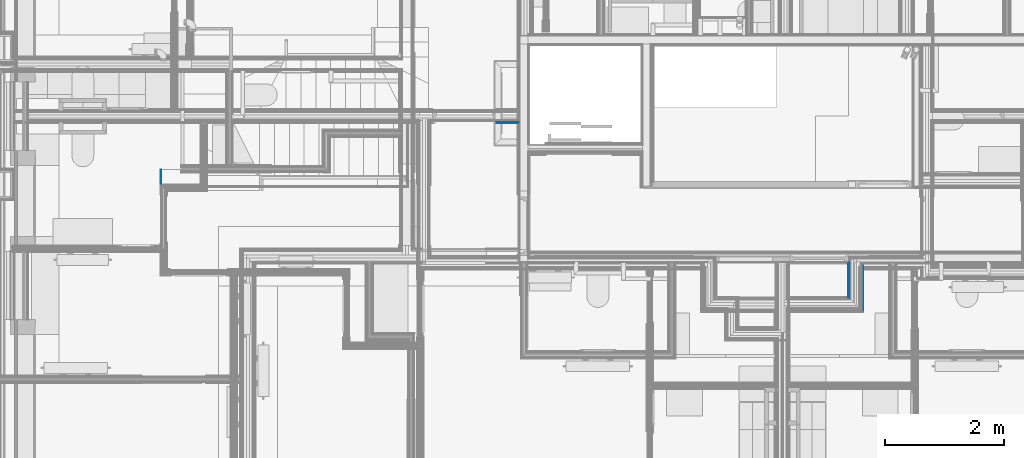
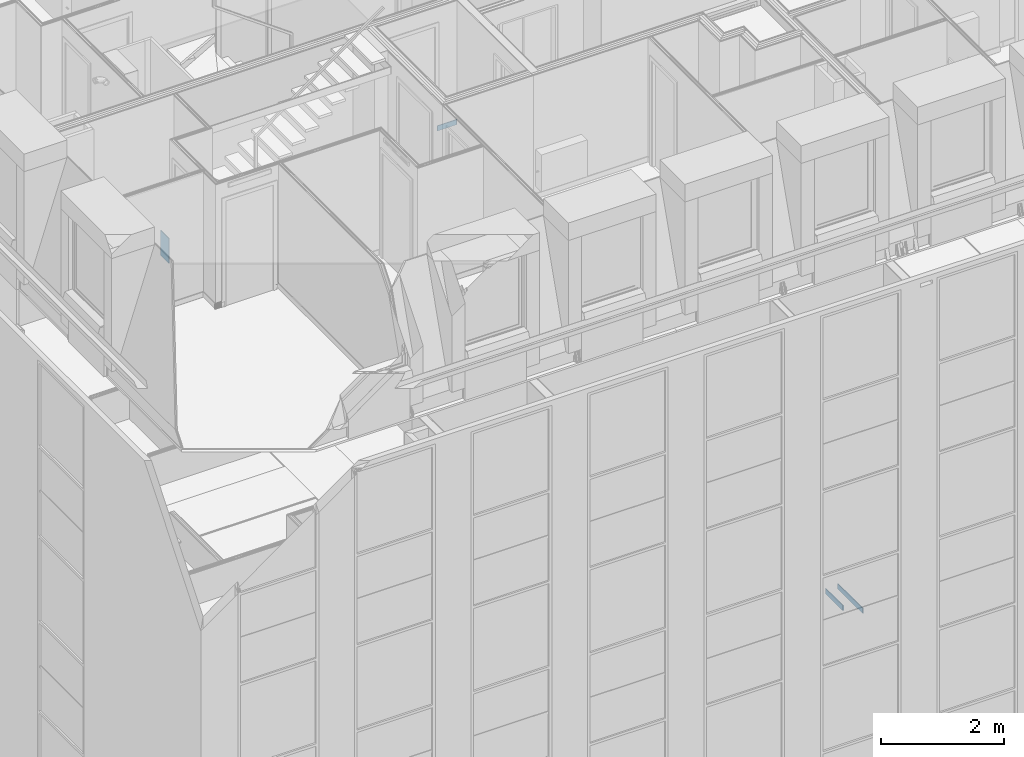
# One storey, part 9 of 169: 4 walls, 1 opening.
"""IFC2X3 building model written with IfcOpenShell, lengths in metres."""

from ifc_helpers import new_model, entity, si_unit, converted_unit, derived_unit, money_unit, direction, frame, frame_2d, origin_with_axes, place, context, subcontext, project, spatial, polyline, rectangle, outline, extrude, material, layer, layer_set, layer_usage, type_object, element, save


model = new_model("IFC2X3")

# Units and contexts
model_context = context("Model", 3, precision=1e-05, world=origin_with_axes(), true_north=direction((0.0, 1.0)))
body_context = subcontext(model_context, "Body", "Model", "MODEL_VIEW", scale=1.0)
ifc_project = project(units=[si_unit("LENGTHUNIT", "METRE"), si_unit("AREAUNIT", "SQUARE_METRE"), si_unit("VOLUMEUNIT", "CUBIC_METRE"), si_unit("ABSORBEDDOSEUNIT", "GRAY"), si_unit("AMOUNTOFSUBSTANCEUNIT", "MOLE"), si_unit("DOSEEQUIVALENTUNIT", "SIEVERT"), si_unit("ELECTRICCAPACITANCEUNIT", "FARAD"), si_unit("ELECTRICCHARGEUNIT", "COULOMB"), si_unit("ELECTRICCONDUCTANCEUNIT", "SIEMENS"), si_unit("ELECTRICCURRENTUNIT", "AMPERE"), si_unit("ELECTRICRESISTANCEUNIT", "OHM"), si_unit("ELECTRICVOLTAGEUNIT", "VOLT"), si_unit("ENERGYUNIT", "JOULE"), si_unit("FORCEUNIT", "NEWTON"), si_unit("FREQUENCYUNIT", "HERTZ"), si_unit("ILLUMINANCEUNIT", "LUX"), si_unit("INDUCTANCEUNIT", "HENRY"), si_unit("LUMINOUSFLUXUNIT", "LUMEN"), si_unit("LUMINOUSINTENSITYUNIT", "CANDELA"), si_unit("MAGNETICFLUXDENSITYUNIT", "TESLA"), si_unit("MAGNETICFLUXUNIT", "WEBER"), si_unit("MASSUNIT", "GRAM"), converted_unit("PLANEANGLEUNIT", "degree", entity("IfcReal", 0.0174532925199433), si_unit("PLANEANGLEUNIT", "RADIAN"), dimensions=[0, 0, 0, 0, 0, 0, 0]), si_unit("POWERUNIT", "WATT"), si_unit("PRESSUREUNIT", "PASCAL"), si_unit("RADIOACTIVITYUNIT", "BECQUEREL"), si_unit("SOLIDANGLEUNIT", "STERADIAN"), si_unit("THERMODYNAMICTEMPERATUREUNIT", "KELVIN"), si_unit("TIMEUNIT", "SECOND"), derived_unit("ACCELERATIONUNIT", [(si_unit("LENGTHUNIT", "METRE"), 1), (si_unit("TIMEUNIT", "SECOND"), -2)]), derived_unit("ANGULARVELOCITYUNIT", [(converted_unit("PLANEANGLEUNIT", "degree", entity("IfcReal", 0.0174532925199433), si_unit("PLANEANGLEUNIT", "RADIAN"), dimensions=[0, 0, 0, 0, 0, 0, 0]), 1), (si_unit("TIMEUNIT", "SECOND"), -1)]), derived_unit("CURVATUREUNIT", [(converted_unit("PLANEANGLEUNIT", "degree", entity("IfcReal", 0.0174532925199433), si_unit("PLANEANGLEUNIT", "RADIAN"), dimensions=[0, 0, 0, 0, 0, 0, 0]), 1), (si_unit("LENGTHUNIT", "METRE"), -1)]), derived_unit("DYNAMICVISCOSITYUNIT", [(si_unit("PRESSUREUNIT", "PASCAL"), 1), (si_unit("TIMEUNIT", "SECOND"), 1)]), derived_unit("HEATFLUXDENSITYUNIT", [(si_unit("POWERUNIT", "WATT"), 1), (si_unit("LENGTHUNIT", "METRE"), -2)]), derived_unit("HEATINGVALUEUNIT", [(si_unit("ENERGYUNIT", "JOULE"), 1), (si_unit("MASSUNIT", "GRAM"), -1)]), derived_unit("INTEGERCOUNTRATEUNIT", [(si_unit("TIMEUNIT", "SECOND"), -1)]), derived_unit("IONCONCENTRATIONUNIT", [(si_unit("MASSUNIT", "GRAM"), 1), (si_unit("VOLUMEUNIT", "CUBIC_METRE"), -1)]), derived_unit("ISOTHERMALMOISTURECAPACITYUNIT", [(si_unit("VOLUMEUNIT", "CUBIC_METRE"), 1), (si_unit("MASSUNIT", "GRAM"), -1)]), derived_unit("KINEMATICVISCOSITYUNIT", [(si_unit("AREAUNIT", "SQUARE_METRE"), 1), (si_unit("TIMEUNIT", "SECOND"), -1)]), derived_unit("LINEARFORCEUNIT", [(si_unit("FORCEUNIT", "NEWTON"), 1), (si_unit("LENGTHUNIT", "METRE"), -1)]), derived_unit("LINEARMOMENTUNIT", [(si_unit("FORCEUNIT", "NEWTON"), 1), (si_unit("LENGTHUNIT", "METRE"), -1)]), derived_unit("LINEARSTIFFNESSUNIT", [(si_unit("FORCEUNIT", "NEWTON"), 1), (si_unit("LENGTHUNIT", "METRE"), -1)]), derived_unit("LINEARVELOCITYUNIT", [(si_unit("LENGTHUNIT", "METRE"), 1), (si_unit("TIMEUNIT", "SECOND"), -1)]), derived_unit("LUMINOUSINTENSITYDISTRIBUTIONUNIT", [(si_unit("LUMINOUSINTENSITYUNIT", "CANDELA"), 1), (si_unit("LUMINOUSFLUXUNIT", "LUMEN"), -1)]), derived_unit("MASSDENSITYUNIT", [(si_unit("MASSUNIT", "GRAM"), 1), (si_unit("VOLUMEUNIT", "CUBIC_METRE"), -1)]), derived_unit("MASSFLOWRATEUNIT", [(si_unit("MASSUNIT", "GRAM"), 1), (si_unit("TIMEUNIT", "SECOND"), -1)]), derived_unit("MASSPERLENGTHUNIT", [(si_unit("MASSUNIT", "GRAM"), 1), (si_unit("LENGTHUNIT", "METRE"), -1)]), derived_unit("MODULUSOFELASTICITYUNIT", [(si_unit("FORCEUNIT", "NEWTON"), 1), (si_unit("AREAUNIT", "SQUARE_METRE"), -1)]), derived_unit("MODULUSOFLINEARSUBGRADEREACTIONUNIT", [(si_unit("FORCEUNIT", "NEWTON"), 1), (si_unit("LENGTHUNIT", "METRE"), -2)]), derived_unit("MODULUSOFROTATIONALSUBGRADEREACTIONUNIT", [(si_unit("FORCEUNIT", "NEWTON"), 1), (si_unit("LENGTHUNIT", "METRE"), 1)]), derived_unit("MODULUSOFSUBGRADEREACTIONUNIT", [(si_unit("FORCEUNIT", "NEWTON"), 1), (si_unit("VOLUMEUNIT", "CUBIC_METRE"), -1)]), derived_unit("MOISTUREDIFFUSIVITYUNIT", [(si_unit("VOLUMEUNIT", "CUBIC_METRE"), 1), (si_unit("TIMEUNIT", "SECOND"), -1)]), derived_unit("MOLECULARWEIGHTUNIT", [(si_unit("MASSUNIT", "GRAM"), 1), (si_unit("AMOUNTOFSUBSTANCEUNIT", "MOLE"), -1)]), derived_unit("PLANARFORCEUNIT", [(si_unit("FORCEUNIT", "NEWTON"), 1), (si_unit("LENGTHUNIT", "METRE"), -2)]), derived_unit("ROTATIONALFREQUENCYUNIT", [(si_unit("TIMEUNIT", "SECOND"), -1)]), derived_unit("ROTATIONALMASSUNIT", [(si_unit("MASSUNIT", "GRAM"), 1), (si_unit("LENGTHUNIT", "METRE"), 2)]), derived_unit("ROTATIONALSTIFFNESSUNIT", [(si_unit("FORCEUNIT", "NEWTON"), 1), (si_unit("LENGTHUNIT", "METRE"), 1), (converted_unit("PLANEANGLEUNIT", "degree", entity("IfcReal", 0.0174532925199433), si_unit("PLANEANGLEUNIT", "RADIAN"), dimensions=[0, 0, 0, 0, 0, 0, 0]), -1)]), derived_unit("SECTIONAREAINTEGRALUNIT", [(si_unit("LENGTHUNIT", "METRE"), 5)]), derived_unit("SECTIONMODULUSUNIT", [(si_unit("LENGTHUNIT", "METRE"), 3)]), derived_unit("SHEARMODULUSUNIT", [(si_unit("FORCEUNIT", "NEWTON"), 1), (si_unit("AREAUNIT", "SQUARE_METRE"), -1)]), derived_unit("SOUNDPOWERUNIT", [(si_unit("ENERGYUNIT", "JOULE"), 1), (si_unit("TIMEUNIT", "SECOND"), -1)]), derived_unit("SPECIFICHEATCAPACITYUNIT", [(si_unit("FORCEUNIT", "NEWTON"), 1), (si_unit("MASSUNIT", "GRAM"), -1), (si_unit("THERMODYNAMICTEMPERATUREUNIT", "KELVIN"), -1)]), derived_unit("TEMPERATUREGRADIENTUNIT", [(si_unit("THERMODYNAMICTEMPERATUREUNIT", "KELVIN"), 1), (si_unit("LENGTHUNIT", "METRE"), -1)]), derived_unit("THERMALADMITTANCEUNIT", [(si_unit("POWERUNIT", "WATT"), 1), (si_unit("AREAUNIT", "SQUARE_METRE"), -1), (si_unit("THERMODYNAMICTEMPERATUREUNIT", "KELVIN"), -1)]), derived_unit("THERMALCONDUCTANCEUNIT", [(si_unit("POWERUNIT", "WATT"), 1), (si_unit("LENGTHUNIT", "METRE"), -1), (si_unit("THERMODYNAMICTEMPERATUREUNIT", "KELVIN"), -1)]), derived_unit("THERMALEXPANSIONCOEFFICIENTUNIT", [(si_unit("THERMODYNAMICTEMPERATUREUNIT", "KELVIN"), -1)]), derived_unit("THERMALRESISTANCEUNIT", [(si_unit("AREAUNIT", "SQUARE_METRE"), 1), (si_unit("POWERUNIT", "WATT"), -1)]), derived_unit("THERMALTRANSMITTANCEUNIT", [(si_unit("POWERUNIT", "WATT"), 1), (si_unit("AREAUNIT", "SQUARE_METRE"), -1), (si_unit("THERMODYNAMICTEMPERATUREUNIT", "KELVIN"), -1)]), derived_unit("TORQUEUNIT", [(si_unit("FORCEUNIT", "NEWTON"), 1), (si_unit("LENGTHUNIT", "METRE"), 1)]), derived_unit("VAPORPERMEABILITYUNIT", [(si_unit("MASSUNIT", "GRAM"), 1), (si_unit("TIMEUNIT", "SECOND"), -1)]), derived_unit("VOLUMETRICFLOWRATEUNIT", [(si_unit("VOLUMEUNIT", "CUBIC_METRE"), 1), (si_unit("TIMEUNIT", "SECOND"), -1)]), derived_unit("WARPINGCONSTANTUNIT", [(si_unit("LENGTHUNIT", "METRE"), 6)]), derived_unit("WARPINGMOMENTUNIT", [(si_unit("FORCEUNIT", "NEWTON"), 1), (si_unit("LENGTHUNIT", "METRE"), 2)]), money_unit("GBP")], contexts=[model_context])

# Site, building, storey
site_placement = place(None, origin_with_axes())
site = spatial("IfcSite", under=ifc_project, at=site_placement, Name="Site", CompositionType="ELEMENT")
building_placement = place(site_placement, origin_with_axes())
building = spatial("IfcBuilding", under=site, at=building_placement, Name="Building01", CompositionType="ELEMENT")
storey_placement = place(building_placement, frame((0.0, 0.0, 5.15), z_axis=(0.0, 0.0, 1.0), x_axis=(1.0, 0.0, 0.0)))
storey = spatial("IfcBuildingStorey", under=building, at=storey_placement, Name="1F", CompositionType="ELEMENT", Elevation=5.15)

# Walls
ifc_material = material(Name="A_BSUK_Walls_Timber")
ifc_layer = layer(ifc_material, 0.015, ventilated=False)
ifc_layer_set = layer_set([ifc_layer])
ifc_layer_usage = layer_usage(ifc_layer_set, "AXIS2", "POSITIVE", 0.0)
wall_type = type_object("IfcWallType", Name="default", PredefinedType="NOTDEFINED")
wall_1_placement = place(storey_placement, frame((14.61, 4.965, 0.015), z_axis=(0.0, 0.0, 1.0), x_axis=(0.0, -1.0, 0.0)))
element("IfcWallStandardCase", 1, at=wall_1_placement, inside=storey, type_object=wall_type, material=ifc_layer_usage, Name="default", ObjectType="default", context=body_context, shape_type="SweptSolid", body=[
    extrude(outline(polyline([(0.575572, 0.015), (-0.015, 0.015), (0.0, 0.0), (0.560572, 0.0), (0.575572, 0.015)])), origin_with_axes(), (0.0, 0.0, 1.0), 0.1),
])
wall_2_placement = place(storey_placement, frame((14.85, 4.98, 0.015), z_axis=(0.0, 0.0, 1.0), x_axis=(0.0, -1.0, 0.0)))
element("IfcWallStandardCase", 2, at=wall_2_placement, inside=storey, type_object=wall_type, material=ifc_layer_usage, Name="default", ObjectType="default", context=body_context, shape_type="SweptSolid", body=[
    extrude(rectangle(XDim=0.815572, YDim=0.015, at=frame_2d((0.407786, 0.0075), x_axis=(-1.0, 0.0))), origin_with_axes(), (0.0, 0.0, 1.0), 0.1),
])

# Wall, opening
wall_3_placement = place(storey_placement, frame((9.06, 7.349939, 9.845), z_axis=(0.0, 0.0, 1.0), x_axis=(-1.0, 0.0, 0.0)))
wall_3 = element("IfcWallStandardCase", 3, at=wall_3_placement, inside=storey, type_object=wall_type, material=ifc_layer_usage, Name="default", ObjectType="default", context=body_context, shape_type="SweptSolid", body=[
    extrude(outline(polyline([(0.015, 0.015), (0.0, 0.0), (1.458, 0.0), (1.458, 0.015), (0.015, 0.015)])), origin_with_axes(), (0.0, 0.0, 1.0), 0.1),
])
opening_placement = place(wall_3_placement, frame((0.374, 0.0, -0.015), z_axis=(0.0, 0.0, 1.0), x_axis=(1.0, 0.0, 0.0)))
element("IfcOpeningElement", 4, at=opening_placement, cuts=wall_3, Name="Opening", ObjectType="Opening", context=body_context, shape_type="SweptSolid", body=[
    extrude(rectangle(XDim=2.142, YDim=1.084, at=frame_2d((-0.542, 1.071), x_axis=(0.0, -1.0))), frame((0.0, 0.0, 0.0), z_axis=(0.0, 1.0, 0.0), x_axis=(-1.0, 0.0, 0.0)), (0.0, 0.0, 1.0), 0.015),
])

# Wall
wall_4_placement = place(storey_placement, frame((3.039976, 6.279939, 9.83), z_axis=(0.0, 0.0, 1.0), x_axis=(0.0, 1.0, 0.0)))
element("IfcWallStandardCase", 5, at=wall_4_placement, inside=storey, type_object=wall_type, material=ifc_layer_usage, Name="default", ObjectType="default", context=body_context, shape_type="SweptSolid", body=[
    extrude(rectangle(XDim=0.27, YDim=0.015, at=frame_2d((0.135, 0.0075), x_axis=(-1.0, 0.0))), origin_with_axes(), (0.0, 0.0, 1.0), 0.5),
])

save(model, "model.ifc")
